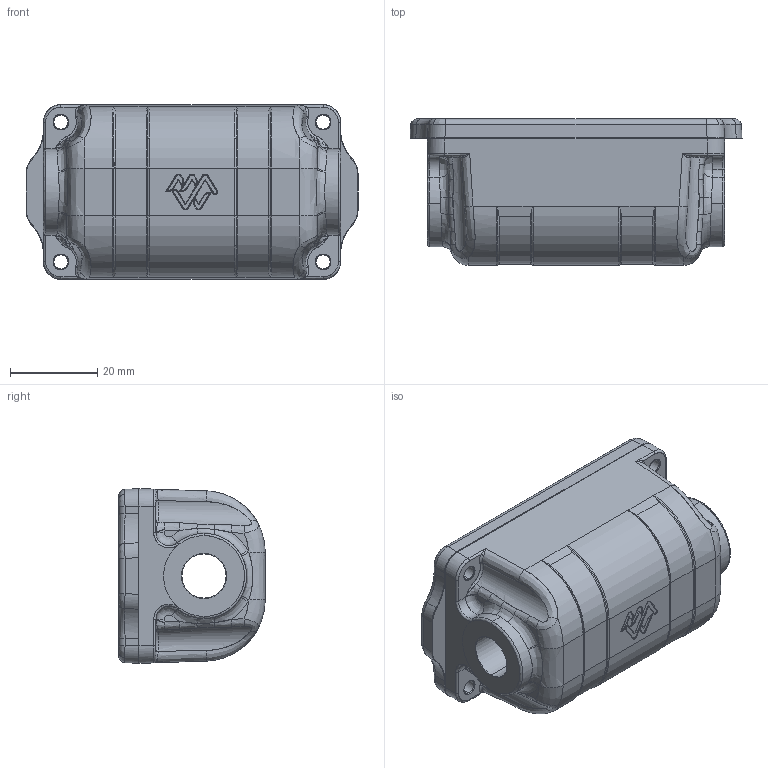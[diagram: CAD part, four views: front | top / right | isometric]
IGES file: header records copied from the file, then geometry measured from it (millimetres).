
Start section: SolidWorks IGES file using analytic representation for surfaces
Global section: file name: C:\BR-Vault\01-PROJECTS\WLP CABLE SPLICE\01-MECHANICAL DESIGN FILES\Public Drawings\PUB-BR-101170.IGS; native system: SolidWorks 2022; preprocessor: SolidWorks 2022; author: bstot; date: 230327.123110; units: millimetre
Bounding box: 75.99 x 33.5 x 40.02 mm (x, y, z)
Surface area: 23099.6 mm2 (no closed solid volume)
Topology: 0 solids, 0 shells, 2166 faces, 19136 edges, 19104 vertices
Faces by surface type: bspline 1411, revolution 755
